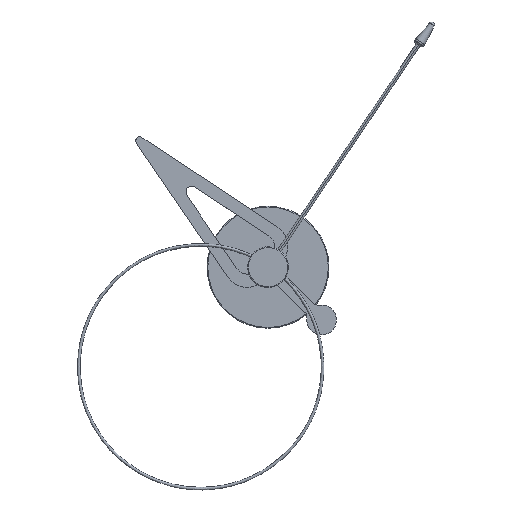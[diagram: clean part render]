
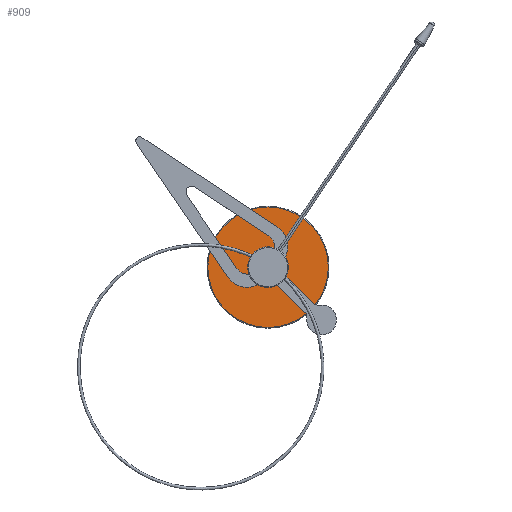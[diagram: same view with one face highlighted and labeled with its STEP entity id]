
A CAD part, top view. The second image highlights one B-rep face of the part: STEP entity #909.
In plain terms, the highlighted planar face has unit normal (0, 0, 1) as drawn and (0, 1, 0) by its records, which use the part's own axes.
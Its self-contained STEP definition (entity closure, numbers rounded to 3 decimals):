
#51 = CARTESIAN_POINT ( 'NONE',  ( 0., 13., -44.5 ) ) ;
#62 = VERTEX_POINT ( 'NONE', #5500 ) ;
#119 = AXIS2_PLACEMENT_3D ( 'NONE', #6394, #2098, #5208 ) ;
#132 = AXIS2_PLACEMENT_3D ( 'NONE', #6418, #7675, #1588 ) ;
#226 = DIRECTION ( 'NONE',  ( 0., 0., 1. ) ) ;
#408 = PLANE ( 'NONE',  #132 ) ;
#429 = VERTEX_POINT ( 'NONE', #4043 ) ;
#521 = EDGE_CURVE ( 'NONE', #62, #1070, #7090, .T. ) ;
#769 = EDGE_LOOP ( 'NONE', ( #7183, #953 ) ) ;
#909 = ADVANCED_FACE ( 'NONE', ( #4838, #1615 ), #408, .T. ) ;
#953 = ORIENTED_EDGE ( 'NONE', *, *, #521, .F. ) ;
#1034 = CIRCLE ( 'NONE', #119, 4. ) ;
#1070 = VERTEX_POINT ( 'NONE', #1105 ) ;
#1105 = CARTESIAN_POINT ( 'NONE',  ( 0., 13., 4. ) ) ;
#1440 = ORIENTED_EDGE ( 'NONE', *, *, #5115, .T. ) ;
#1522 = CARTESIAN_POINT ( 'NONE',  ( 0., 13., 0. ) ) ;
#1588 = DIRECTION ( 'NONE',  ( 0., 0., 1. ) ) ;
#1605 = EDGE_CURVE ( 'NONE', #1070, #62, #1034, .T. ) ;
#1615 = FACE_BOUND ( 'NONE', #769, .T. ) ;
#1760 = EDGE_LOOP ( 'NONE', ( #1440, #7131 ) ) ;
#2062 = VERTEX_POINT ( 'NONE', #51 ) ;
#2098 = DIRECTION ( 'NONE',  ( 0., 1., 0. ) ) ;
#2404 = AXIS2_PLACEMENT_3D ( 'NONE', #3178, #3765, #4344 ) ;
#3178 = CARTESIAN_POINT ( 'NONE',  ( 0., 13., 0. ) ) ;
#3303 = DIRECTION ( 'NONE',  ( 0., 1., 0. ) ) ;
#3765 = DIRECTION ( 'NONE',  ( 0., 1., 0. ) ) ;
#4043 = CARTESIAN_POINT ( 'NONE',  ( 0., 13., 44.5 ) ) ;
#4297 = CARTESIAN_POINT ( 'NONE',  ( 0., 13., 0. ) ) ;
#4344 = DIRECTION ( 'NONE',  ( 0., 0., 1. ) ) ;
#4803 = AXIS2_PLACEMENT_3D ( 'NONE', #1522, #3303, #226 ) ;
#4838 = FACE_OUTER_BOUND ( 'NONE', #1760, .T. ) ;
#5115 = EDGE_CURVE ( 'NONE', #429, #2062, #6192, .T. ) ;
#5208 = DIRECTION ( 'NONE',  ( 0., 0., 1. ) ) ;
#5448 = AXIS2_PLACEMENT_3D ( 'NONE', #4297, #6146, #6201 ) ;
#5500 = CARTESIAN_POINT ( 'NONE',  ( 0., 13., -4. ) ) ;
#5931 = EDGE_CURVE ( 'NONE', #2062, #429, #6494, .T. ) ;
#6146 = DIRECTION ( 'NONE',  ( 0., 1., 0. ) ) ;
#6192 = CIRCLE ( 'NONE', #5448, 44.5 ) ;
#6201 = DIRECTION ( 'NONE',  ( 0., 0., 1. ) ) ;
#6394 = CARTESIAN_POINT ( 'NONE',  ( 0., 13., 0. ) ) ;
#6418 = CARTESIAN_POINT ( 'NONE',  ( 0., 13., 0. ) ) ;
#6494 = CIRCLE ( 'NONE', #2404, 44.5 ) ;
#7090 = CIRCLE ( 'NONE', #4803, 4. ) ;
#7131 = ORIENTED_EDGE ( 'NONE', *, *, #5931, .T. ) ;
#7183 = ORIENTED_EDGE ( 'NONE', *, *, #1605, .F. ) ;
#7675 = DIRECTION ( 'NONE',  ( 0., 1., 0. ) ) ;
